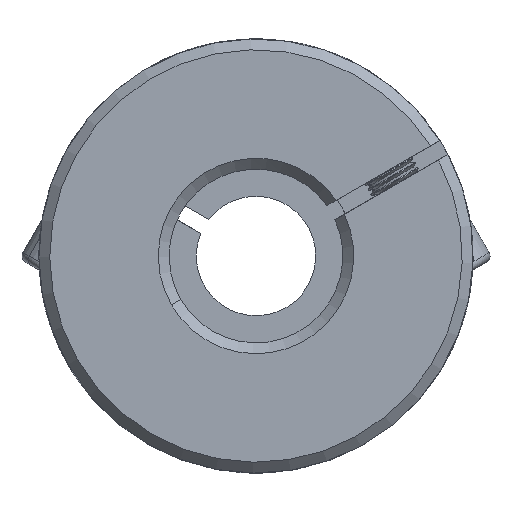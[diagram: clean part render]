
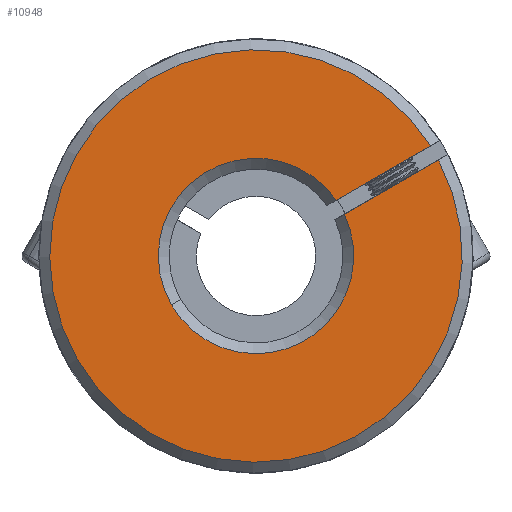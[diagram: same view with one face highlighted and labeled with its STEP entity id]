
A CAD part, front view. The second image highlights one B-rep face of the part: STEP entity #10948.
In plain terms, the highlighted planar face has unit normal (0, -1, 0).
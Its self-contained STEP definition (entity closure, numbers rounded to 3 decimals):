
#383 = DIRECTION ( 'NONE',  ( 0.5, 0., -0.866 ) ) ;
#626 = ORIENTED_EDGE ( 'NONE', *, *, #12309, .T. ) ;
#674 = DIRECTION ( 'NONE',  ( -0.866, 0., -0.5 ) ) ;
#688 = CARTESIAN_POINT ( 'NONE',  ( -1.447, -31.239, 40. ) ) ;
#851 = PLANE ( 'NONE',  #5426 ) ;
#894 = CARTESIAN_POINT ( 'NONE',  ( 52.98, -31.239, 45.743 ) ) ;
#974 = VERTEX_POINT ( 'NONE', #13167 ) ;
#1205 = VERTEX_POINT ( 'NONE', #1611 ) ;
#1593 = CIRCLE ( 'NONE', #8717, 9. ) ;
#1611 = CARTESIAN_POINT ( 'NONE',  ( 5.943, -31.239, 45.136 ) ) ;
#1664 = FACE_OUTER_BOUND ( 'NONE', #3961, .T. ) ;
#1861 = LINE ( 'NONE', #2841, #9123 ) ;
#2506 = ORIENTED_EDGE ( 'NONE', *, *, #4613, .F. ) ;
#2841 = CARTESIAN_POINT ( 'NONE',  ( 5.074, -31.239, 44.634 ) ) ;
#2914 = AXIS2_PLACEMENT_3D ( 'NONE', #13300, #6865, #383 ) ;
#3017 = EDGE_CURVE ( 'NONE', #9203, #11312, #1593, .T. ) ;
#3575 = CARTESIAN_POINT ( 'NONE',  ( 6.694, -31.239, 43.837 ) ) ;
#3961 = EDGE_LOOP ( 'NONE', ( #2506, #12486, #11122, #7502, #626 ) ) ;
#4316 = CARTESIAN_POINT ( 'NONE',  ( 5.825, -31.239, 43.335 ) ) ;
#4613 = EDGE_CURVE ( 'NONE', #9203, #13346, #7306, .T. ) ;
#5064 = DIRECTION ( 'NONE',  ( 0., 1., 0. ) ) ;
#5272 = DIRECTION ( 'NONE',  ( 0.866, 0., 0.5 ) ) ;
#5426 = AXIS2_PLACEMENT_3D ( 'NONE', #894, #8707, #7706 ) ;
#5859 = DIRECTION ( 'NONE',  ( 0., 1., 0. ) ) ;
#6145 = AXIS2_PLACEMENT_3D ( 'NONE', #12239, #5859, #12374 ) ;
#6865 = DIRECTION ( 'NONE',  ( 0., -1., 0. ) ) ;
#7306 = LINE ( 'NONE', #4316, #8504 ) ;
#7502 = ORIENTED_EDGE ( 'NONE', *, *, #9790, .F. ) ;
#7706 = DIRECTION ( 'NONE',  ( 0.5, 0., -0.866 ) ) ;
#8266 = DIRECTION ( 'NONE',  ( 0.5, 0., -0.866 ) ) ;
#8504 = VECTOR ( 'NONE', #5272, 1000. ) ;
#8707 = DIRECTION ( 'NONE',  ( 0., 1., 0. ) ) ;
#8717 = AXIS2_PLACEMENT_3D ( 'NONE', #688, #5064, #8266 ) ;
#9123 = VECTOR ( 'NONE', #674, 1000. ) ;
#9203 = VERTEX_POINT ( 'NONE', #3575 ) ;
#9269 = CARTESIAN_POINT ( 'NONE',  ( 15.367, -31.239, 48.848 ) ) ;
#9790 = EDGE_CURVE ( 'NONE', #974, #1205, #1861, .T. ) ;
#10068 = EDGE_CURVE ( 'NONE', #11312, #1205, #13832, .T. ) ;
#10948 = ADVANCED_FACE ( 'NONE', ( #1664 ), #851, .F. ) ;
#11122 = ORIENTED_EDGE ( 'NONE', *, *, #10068, .T. ) ;
#11266 = CARTESIAN_POINT ( 'NONE',  ( -9.24, -31.239, 35.498 ) ) ;
#11278 = CIRCLE ( 'NONE', #2914, 19. ) ;
#11312 = VERTEX_POINT ( 'NONE', #11266 ) ;
#12239 = CARTESIAN_POINT ( 'NONE',  ( -1.447, -31.239, 40. ) ) ;
#12309 = EDGE_CURVE ( 'NONE', #974, #13346, #11278, .T. ) ;
#12374 = DIRECTION ( 'NONE',  ( 0.5, 0., -0.866 ) ) ;
#12486 = ORIENTED_EDGE ( 'NONE', *, *, #3017, .T. ) ;
#13167 = CARTESIAN_POINT ( 'NONE',  ( 14.616, -31.239, 50.147 ) ) ;
#13300 = CARTESIAN_POINT ( 'NONE',  ( -1.447, -31.239, 40. ) ) ;
#13346 = VERTEX_POINT ( 'NONE', #9269 ) ;
#13832 = CIRCLE ( 'NONE', #6145, 9. ) ;
